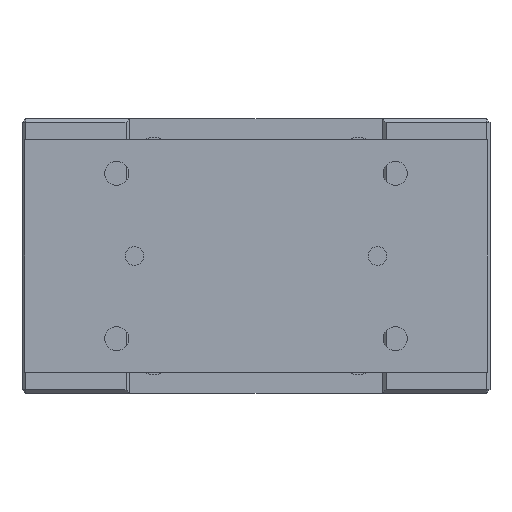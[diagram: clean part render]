
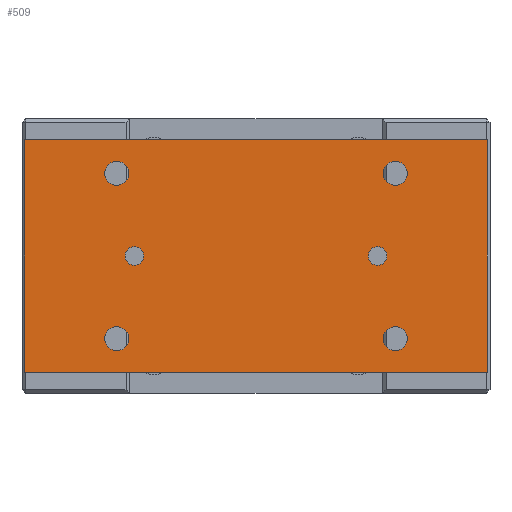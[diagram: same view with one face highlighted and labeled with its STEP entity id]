
A CAD part, left-side view. The second image highlights one B-rep face of the part: STEP entity #509.
In plain terms, the highlighted planar face has unit normal (-1, 0, 0).
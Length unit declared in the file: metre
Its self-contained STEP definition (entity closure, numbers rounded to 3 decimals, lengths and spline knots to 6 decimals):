
#509 = ADVANCED_FACE( '', ( #1204, #1205, #1206, #1207, #1208, #1209, #1210 ), #1211, .T. );
#1204 = FACE_BOUND( '', #2094, .T. );
#1205 = FACE_BOUND( '', #2095, .T. );
#1206 = FACE_BOUND( '', #2096, .T. );
#1207 = FACE_BOUND( '', #2097, .T. );
#1208 = FACE_BOUND( '', #2098, .T. );
#1209 = FACE_BOUND( '', #2099, .T. );
#1210 = FACE_OUTER_BOUND( '', #2100, .T. );
#1211 = PLANE( '', #2101 );
#2094 = EDGE_LOOP( '', ( #3417 ) );
#2095 = EDGE_LOOP( '', ( #3418 ) );
#2096 = EDGE_LOOP( '', ( #3419 ) );
#2097 = EDGE_LOOP( '', ( #3420 ) );
#2098 = EDGE_LOOP( '', ( #3421 ) );
#2099 = EDGE_LOOP( '', ( #3422 ) );
#2100 = EDGE_LOOP( '', ( #3423, #3424, #3425, #3426 ) );
#2101 = AXIS2_PLACEMENT_3D( '', #3427, #3428, #3429 );
#3417 = ORIENTED_EDGE( '', *, *, #4389, .F. );
#3418 = ORIENTED_EDGE( '', *, *, #4638, .T. );
#3419 = ORIENTED_EDGE( '', *, *, #4336, .F. );
#3420 = ORIENTED_EDGE( '', *, *, #4681, .F. );
#3421 = ORIENTED_EDGE( '', *, *, #4704, .F. );
#3422 = ORIENTED_EDGE( '', *, *, #4409, .F. );
#3423 = ORIENTED_EDGE( '', *, *, #4705, .T. );
#3424 = ORIENTED_EDGE( '', *, *, #4635, .T. );
#3425 = ORIENTED_EDGE( '', *, *, #4706, .T. );
#3426 = ORIENTED_EDGE( '', *, *, #4593, .T. );
#3427 = CARTESIAN_POINT( '', ( -0.143, -0.1245, -0.0115 ) );
#3428 = DIRECTION( '', ( -1., 0., 0. ) );
#3429 = DIRECTION( '', ( 0., 0., 1. ) );
#4336 = EDGE_CURVE( '', #5019, #5019, #5020, .T. );
#4389 = EDGE_CURVE( '', #5108, #5108, #5109, .T. );
#4409 = EDGE_CURVE( '', #5140, #5140, #5141, .T. );
#4593 = EDGE_CURVE( '', #5432, #5430, #5433, .T. );
#4635 = EDGE_CURVE( '', #5496, #5494, #5497, .T. );
#4638 = EDGE_CURVE( '', #5500, #5500, #5501, .T. );
#4681 = EDGE_CURVE( '', #5559, #5559, #5560, .T. );
#4704 = EDGE_CURVE( '', #5593, #5593, #5594, .T. );
#4705 = EDGE_CURVE( '', #5430, #5496, #5595, .T. );
#4706 = EDGE_CURVE( '', #5494, #5432, #5596, .T. );
#5019 = VERTEX_POINT( '', #5977 );
#5020 = CIRCLE( '', #5978, 0.0065 );
#5108 = VERTEX_POINT( '', #6093 );
#5109 = CIRCLE( '', #6094, 0.005 );
#5140 = VERTEX_POINT( '', #6164 );
#5141 = CIRCLE( '', #6165, 0.0065 );
#5430 = VERTEX_POINT( '', #6639 );
#5432 = VERTEX_POINT( '', #6642 );
#5433 = LINE( '', #6643, #6644 );
#5494 = VERTEX_POINT( '', #6724 );
#5496 = VERTEX_POINT( '', #6727 );
#5497 = LINE( '', #6728, #6729 );
#5500 = VERTEX_POINT( '', #6733 );
#5501 = CIRCLE( '', #6734, 0.005 );
#5559 = VERTEX_POINT( '', #6844 );
#5560 = CIRCLE( '', #6845, 0.0065 );
#5593 = VERTEX_POINT( '', #6914 );
#5594 = CIRCLE( '', #6915, 0.0065 );
#5595 = LINE( '', #6916, #6917 );
#5596 = LINE( '', #6918, #6919 );
#5977 = CARTESIAN_POINT( '', ( -0.143, -0.075, -0.112 ) );
#5978 = AXIS2_PLACEMENT_3D( '', #7358, #7359, #7360 );
#6093 = CARTESIAN_POINT( '', ( -0.143, -0.0705, -0.074 ) );
#6094 = AXIS2_PLACEMENT_3D( '', #7421, #7422, #7423 );
#6164 = CARTESIAN_POINT( '', ( -0.143, 0.075, -0.023 ) );
#6165 = AXIS2_PLACEMENT_3D( '', #7448, #7449, #7450 );
#6639 = CARTESIAN_POINT( '', ( -0.143, -0.1245, -0.1365 ) );
#6642 = CARTESIAN_POINT( '', ( -0.143, 0.1245, -0.1365 ) );
#6643 = CARTESIAN_POINT( '', ( -0.143, 0.1245, -0.1365 ) );
#6644 = VECTOR( '', #7664, 1. );
#6724 = CARTESIAN_POINT( '', ( -0.143, 0.1245, -0.0115 ) );
#6727 = CARTESIAN_POINT( '', ( -0.143, -0.1245, -0.0115 ) );
#6728 = CARTESIAN_POINT( '', ( -0.143, -0.1245, -0.0115 ) );
#6729 = VECTOR( '', #7709, 1. );
#6733 = CARTESIAN_POINT( '', ( -0.143, 0.0705, -0.074 ) );
#6734 = AXIS2_PLACEMENT_3D( '', #7711, #7712, #7713 );
#6844 = CARTESIAN_POINT( '', ( -0.143, 0.075, -0.112 ) );
#6845 = AXIS2_PLACEMENT_3D( '', #7757, #7758, #7759 );
#6914 = CARTESIAN_POINT( '', ( -0.143, -0.075, -0.023 ) );
#6915 = AXIS2_PLACEMENT_3D( '', #7787, #7788, #7789 );
#6916 = CARTESIAN_POINT( '', ( -0.143, -0.1245, -0.1365 ) );
#6917 = VECTOR( '', #7790, 1. );
#6918 = CARTESIAN_POINT( '', ( -0.143, 0.1245, -0.0115 ) );
#6919 = VECTOR( '', #7791, 1. );
#7358 = CARTESIAN_POINT( '', ( -0.143, -0.075, -0.1185 ) );
#7359 = DIRECTION( '', ( -1., 0., 0. ) );
#7360 = DIRECTION( '', ( 0., 0., 1. ) );
#7421 = CARTESIAN_POINT( '', ( -0.143, -0.0655, -0.074 ) );
#7422 = DIRECTION( '', ( -1., 0., 0. ) );
#7423 = DIRECTION( '', ( 0., -1., 0. ) );
#7448 = CARTESIAN_POINT( '', ( -0.143, 0.075, -0.0295 ) );
#7449 = DIRECTION( '', ( -1., 0., 0. ) );
#7450 = DIRECTION( '', ( 0., 0., 1. ) );
#7664 = DIRECTION( '', ( 0., -1., 0. ) );
#7709 = DIRECTION( '', ( 0., 1., 0. ) );
#7711 = CARTESIAN_POINT( '', ( -0.143, 0.0655, -0.074 ) );
#7712 = DIRECTION( '', ( 1., 0., 0. ) );
#7713 = DIRECTION( '', ( 0., 1., 0. ) );
#7757 = CARTESIAN_POINT( '', ( -0.143, 0.075, -0.1185 ) );
#7758 = DIRECTION( '', ( -1., 0., 0. ) );
#7759 = DIRECTION( '', ( 0., 0., 1. ) );
#7787 = CARTESIAN_POINT( '', ( -0.143, -0.075, -0.0295 ) );
#7788 = DIRECTION( '', ( -1., 0., 0. ) );
#7789 = DIRECTION( '', ( 0., 0., 1. ) );
#7790 = DIRECTION( '', ( 0., 0., 1. ) );
#7791 = DIRECTION( '', ( 0., 0., -1. ) );
